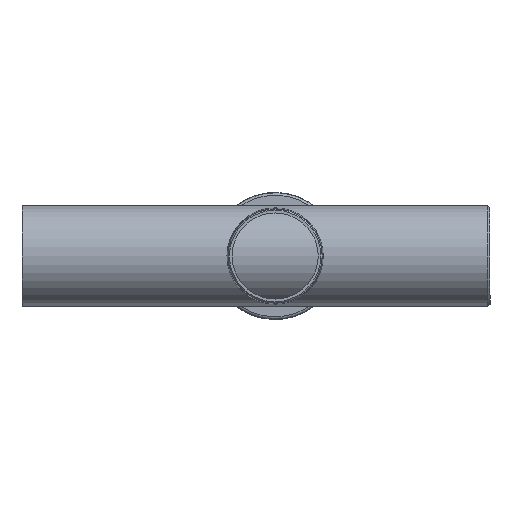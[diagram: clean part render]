
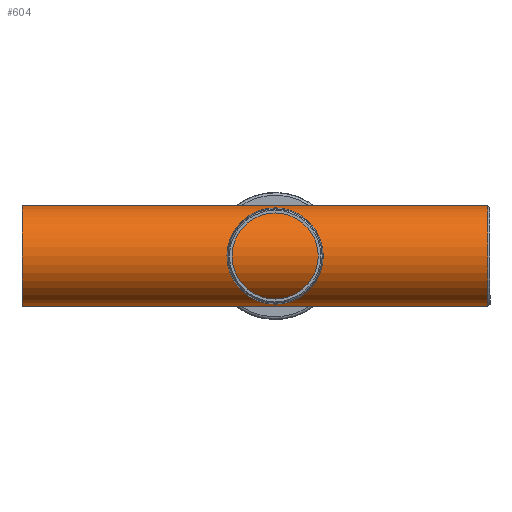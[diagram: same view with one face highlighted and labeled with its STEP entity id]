
A CAD part, left-side view. The second image highlights one B-rep face of the part: STEP entity #604.
In plain terms, the highlighted cylindrical face has radius 39.85 mm (diameter 79.7 mm), a full revolution.
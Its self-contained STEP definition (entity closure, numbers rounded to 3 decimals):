
#98=CYLINDRICAL_SURFACE('',#673,39.85);
#125=ORIENTED_EDGE('',*,*,#236,.T.);
#126=ORIENTED_EDGE('',*,*,#234,.F.);
#234=EDGE_CURVE('',#293,#293,#344,.T.);
#236=EDGE_CURVE('',#295,#295,#346,.T.);
#293=VERTEX_POINT('',#878);
#295=VERTEX_POINT('',#883);
#344=CIRCLE('',#671,39.85);
#346=CIRCLE('',#674,39.85);
#380=EDGE_LOOP('',(#125));
#381=EDGE_LOOP('',(#126));
#460=FACE_BOUND('',#380,.T.);
#461=FACE_BOUND('',#381,.T.);
#604=ADVANCED_FACE('',(#460,#461),#98,.T.);
#671=AXIS2_PLACEMENT_3D('',#877,#751,#752);
#673=AXIS2_PLACEMENT_3D('',#881,#755,#756);
#674=AXIS2_PLACEMENT_3D('',#882,#757,#758);
#751=DIRECTION('',(-1.,0.,0.));
#752=DIRECTION('',(0.,0.,1.));
#755=DIRECTION('',(-1.,0.,0.));
#756=DIRECTION('',(0.,0.,1.));
#757=DIRECTION('',(-1.,0.,0.));
#758=DIRECTION('',(0.,0.,1.));
#877=CARTESIAN_POINT('',(-168.,0.,0.));
#878=CARTESIAN_POINT('',(-168.,0.,39.85));
#881=CARTESIAN_POINT('',(-44.9,0.,0.));
#882=CARTESIAN_POINT('',(200.,0.,0.));
#883=CARTESIAN_POINT('',(200.,0.,39.85));
